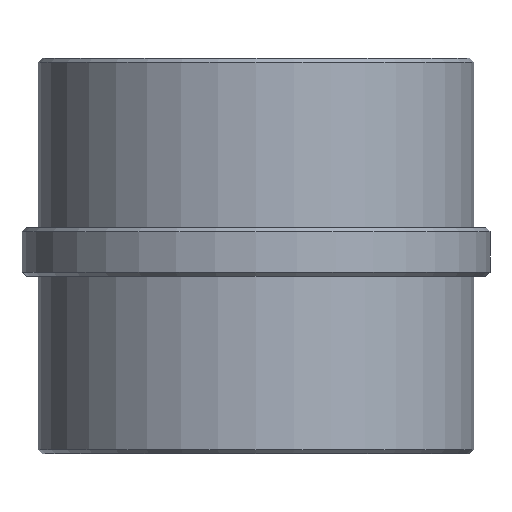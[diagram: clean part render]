
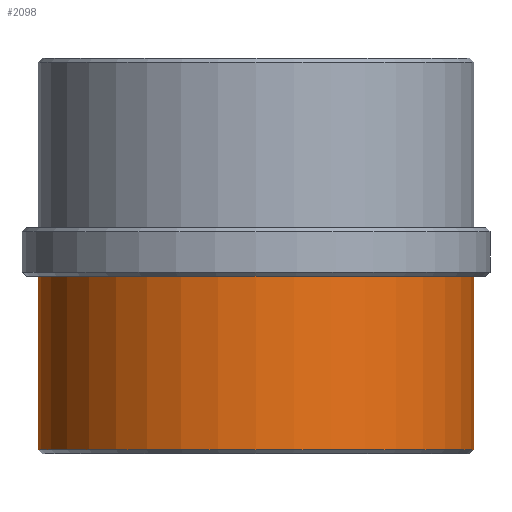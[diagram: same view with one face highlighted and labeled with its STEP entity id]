
A CAD part, front view. The second image highlights one B-rep face of the part: STEP entity #2098.
In plain terms, the highlighted cylindrical face has radius 27 mm (diameter 54 mm), a partial arc.
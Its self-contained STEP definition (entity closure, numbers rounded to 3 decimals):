
#1013=CARTESIAN_POINT('',(0.,0.,-21.5));
#1014=DIRECTION('',(0.,0.,-1.));
#1015=DIRECTION('',(1.,0.,0.));
#1016=AXIS2_PLACEMENT_3D('',#1013,#1014,#1015);
#1018=DIRECTION('',(0.,0.,-1.));
#1019=VECTOR('',#1018,21.5);
#1020=CARTESIAN_POINT('',(-27.,0.,0.));
#1021=LINE('',#1020,#1019);
#1022=CARTESIAN_POINT('',(0.,0.,0.));
#1023=DIRECTION('',(0.,0.,-1.));
#1024=DIRECTION('',(1.,0.,0.));
#1025=AXIS2_PLACEMENT_3D('',#1022,#1023,#1024);
#1027=DIRECTION('',(0.,0.,-1.));
#1028=VECTOR('',#1027,21.5);
#1029=CARTESIAN_POINT('',(27.,0.,0.));
#1030=LINE('',#1029,#1028);
#1251=CARTESIAN_POINT('',(27.,0.,0.));
#1252=CARTESIAN_POINT('',(-27.,0.,0.));
#1253=VERTEX_POINT('',#1251);
#1254=VERTEX_POINT('',#1252);
#1259=CARTESIAN_POINT('',(-27.,0.,-21.5));
#1260=CARTESIAN_POINT('',(27.,0.,-21.5));
#1261=VERTEX_POINT('',#1259);
#1262=VERTEX_POINT('',#1260);
#2087=CARTESIAN_POINT('',(0.,0.,-24.45));
#2088=DIRECTION('',(0.,0.,1.));
#2089=DIRECTION('',(-1.,0.,0.));
#2090=AXIS2_PLACEMENT_3D('',#2087,#2088,#2089);
#2091=CYLINDRICAL_SURFACE('',#2090,27.);
#2092=ORIENTED_EDGE('',*,*,#2081,.T.);
#2093=ORIENTED_EDGE('',*,*,#2037,.F.);
#2094=ORIENTED_EDGE('',*,*,#2022,.F.);
#2095=ORIENTED_EDGE('',*,*,#2034,.T.);
#2096=EDGE_LOOP('',(#2092,#2093,#2094,#2095));
#2097=FACE_OUTER_BOUND('',#2096,.F.);
#2098=ADVANCED_FACE('',(#2097),#2091,.T.);
#1017=CIRCLE('',#1016,27.);
#1026=CIRCLE('',#1025,27.);
#2022=EDGE_CURVE('',#1253,#1254,#1026,.T.);
#2034=EDGE_CURVE('',#1253,#1262,#1030,.T.);
#2037=EDGE_CURVE('',#1254,#1261,#1021,.T.);
#2081=EDGE_CURVE('',#1262,#1261,#1017,.T.);
